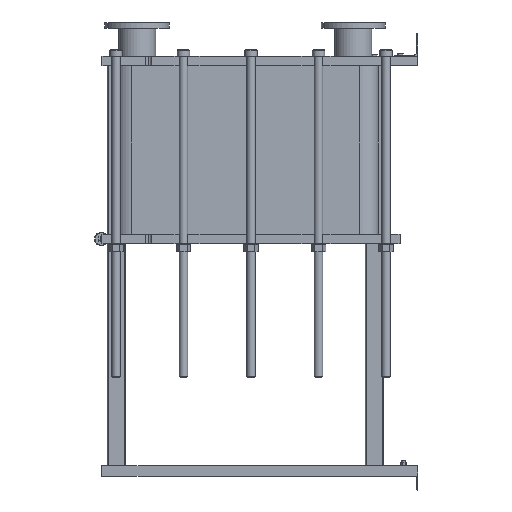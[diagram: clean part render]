
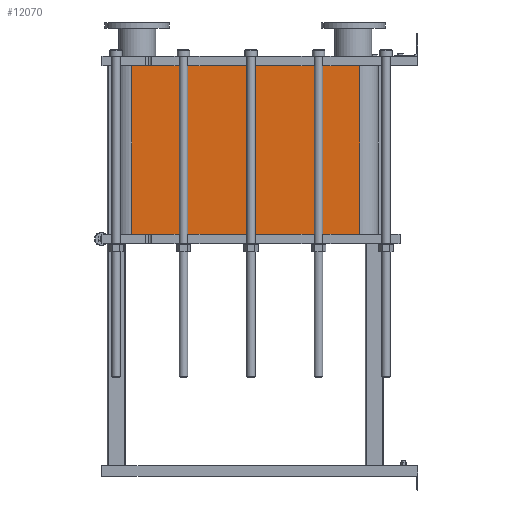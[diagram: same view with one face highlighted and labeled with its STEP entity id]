
A CAD part, left-side view. The second image highlights one B-rep face of the part: STEP entity #12070.
In plain terms, the highlighted planar face has unit normal (-1, 0, 0).
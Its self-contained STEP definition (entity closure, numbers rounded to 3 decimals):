
#1064=LINE('',#21140,#2164);
#1065=LINE('',#21144,#2165);
#1066=LINE('',#21146,#2166);
#1067=LINE('',#21147,#2167);
#2164=VECTOR('',#15790,10.);
#2165=VECTOR('',#15795,10.);
#2166=VECTOR('',#15796,10.);
#2167=VECTOR('',#15797,10.);
#3304=FACE_OUTER_BOUND('',#4091,.T.);
#4091=EDGE_LOOP('',(#9793,#9794,#9795,#9796));
#5677=VERTEX_POINT('',#21137);
#5678=VERTEX_POINT('',#21139);
#5679=VERTEX_POINT('',#21143);
#5680=VERTEX_POINT('',#21145);
#7118=EDGE_CURVE('',#5678,#5677,#1064,.T.);
#7120=EDGE_CURVE('',#5677,#5679,#1065,.T.);
#7121=EDGE_CURVE('',#5680,#5679,#1066,.T.);
#7122=EDGE_CURVE('',#5680,#5678,#1067,.T.);
#9793=ORIENTED_EDGE('',*,*,#7120,.T.);
#9794=ORIENTED_EDGE('',*,*,#7121,.F.);
#9795=ORIENTED_EDGE('',*,*,#7122,.T.);
#9796=ORIENTED_EDGE('',*,*,#7118,.T.);
#11441=PLANE('',#13191);
#12070=ADVANCED_FACE('',(#3304),#11441,.T.);
#13191=AXIS2_PLACEMENT_3D('',#21142,#15793,#15794);
#15790=DIRECTION('',(0.,0.,-1.));
#15793=DIRECTION('center_axis',(-1.,0.,0.));
#15794=DIRECTION('ref_axis',(0.,1.,0.));
#15795=DIRECTION('',(0.,-1.,0.));
#15796=DIRECTION('',(0.,0.,-1.));
#15797=DIRECTION('',(0.,1.,0.));
#21137=CARTESIAN_POINT('',(-248.152,1243.818,-734.85));
#21139=CARTESIAN_POINT('',(-248.152,1243.818,0.));
#21140=CARTESIAN_POINT('',(-248.152,1243.818,0.));
#21142=CARTESIAN_POINT('Origin',(-248.152,251.818,0.));
#21143=CARTESIAN_POINT('',(-248.152,251.818,-734.85));
#21144=CARTESIAN_POINT('',(-248.152,499.818,-734.85));
#21145=CARTESIAN_POINT('',(-248.152,251.818,0.));
#21146=CARTESIAN_POINT('',(-248.152,251.818,0.));
#21147=CARTESIAN_POINT('',(-248.152,251.818,0.));
